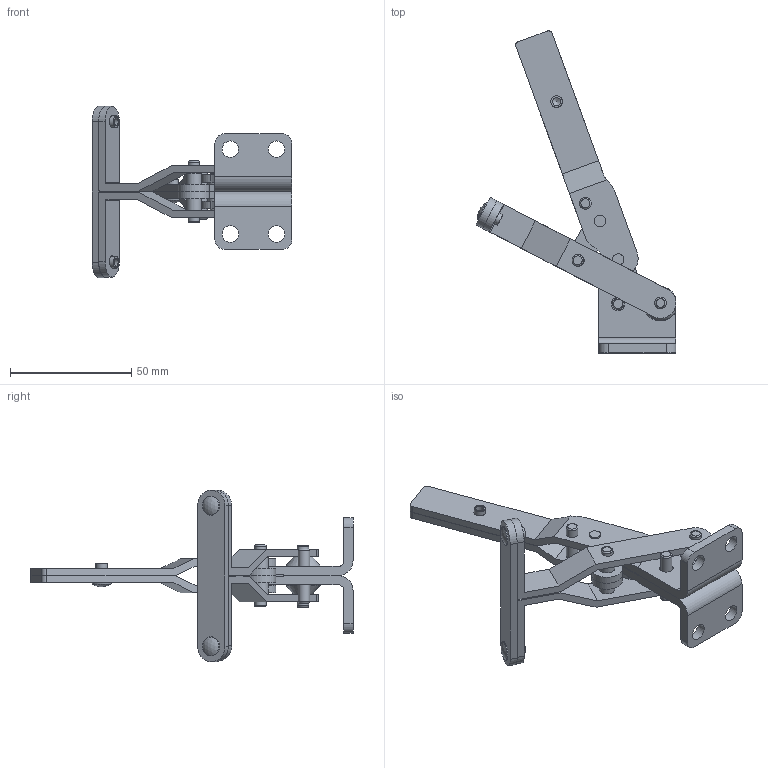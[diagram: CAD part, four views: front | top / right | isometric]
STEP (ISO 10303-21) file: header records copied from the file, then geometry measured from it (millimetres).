
FILE_DESCRIPTION(/* description */ (''),/* implementation_level */ '2;1');
FILE_NAME(/* name */ 'C:\Users\Nick\Desktop\TC-200\3D\TC-200 Open.stp',/* time_stamp */ '2015-09-15T16:40:51-04:00',/* author */ ('Nick'),/* organization */ (''),/* preprocessor_version */ 'ST-DEVELOPER v16.1',/* originating_system */ 'AutoCAD Mechanical',/* authorisation */ '');
FILE_SCHEMA (('AUTOMOTIVE_DESIGN { 1 0 10303 214 3 1 1 }'));
Length unit declared in the file: inch
Products named in the file (13): 120002-L; 120002-R; 130028; 150009; 150088; 150089; 110005-L; 110005-R; 150042; 100035; 121036; 150042$1$ATF; Product
Assembly tree (18 placements, depth 2):
  Product
    120002-L
    120002-R
    130028  x2
    150009  x2
    150088  x2
    150089  x2
    110005-L
    110005-R
    150042
    100035  x2
    121036
    150042$1$ATF  x2
Bounding box: 82.35 x 132.72 x 70.64 mm (x, y, z)
Volume: 36924.3 mm3; surface area: 31154.3 mm2
Topology: 18 solids, 18 shells, 269 faces, 633 edges, 411 vertices
Faces by surface type: plane 114, cylinder 104, torus 27, sphere 9, bspline 8, cone 7
Full cylindrical faces by diameter (mm): 3.353 x3, 4.674 x8, 4.724 x3, 4.75 x1, 4.762 x2, 4.775 x4, 4.801 x2, 4.826 x10, 5.537 x1, 6.299 x4, 6.426 x4, 6.452 x4, 6.807 x4
Entity records: 7188 total; most frequent: CARTESIAN_POINT 2012, DIRECTION 1096, ORIENTED_EDGE 900, EDGE_CURVE 450, AXIS2_PLACEMENT_3D 447, VERTEX_POINT 324, EDGE_LOOP 316, CIRCLE 212
